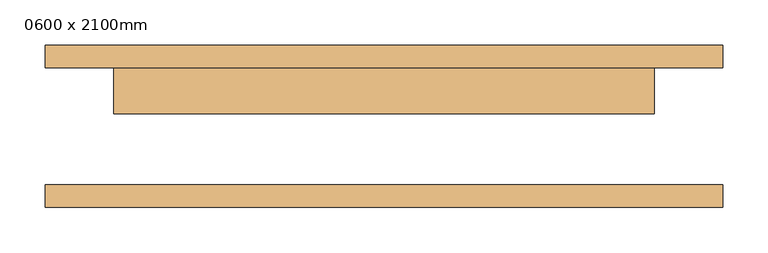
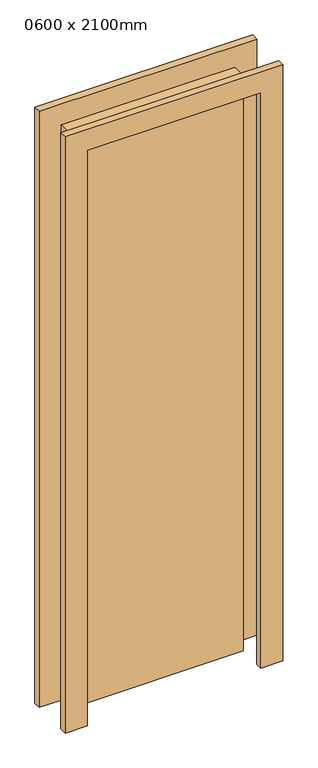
"""IFC4 building model written with IfcOpenShell, lengths in millimetres: door geometry, M_Folha única : 0600 x 2100mm."""

from ifc_helpers import new_model, si_unit, frame, origin, origin_with_axes, place, context, project, spatial, polyline, outline, extrude, source, transform, mapped, element, save


def door_0600_x_2100mm_5e2a27a3(model_context):
    return source(origin(), model_context, "Body", "SweptSolid", [
        extrude(outline(polyline([(2176.0, -376.0), (0.0, -376.0), (0.0, -300.0), (2100.0, -300.0), (2100.0, 300.0), (0.0, 300.0), (0.0, 376.0), (2176.0, 376.0), (2176.0, -376.0)])), frame((0.0, 65.0, 0.0), z_axis=(0.0, 1.0, 0.0), x_axis=(0.0, 0.0, 1.0)), (0.0, 0.0, 1.0), 25.0),
        extrude(outline(polyline([(2176.0, 376.0), (2176.0, -376.0), (0.0, -376.0), (0.0, -300.0), (2100.0, -300.0), (2100.0, 300.0), (0.0, 300.0), (0.0, 376.0), (2176.0, 376.0)])), frame((0.0, -90.0, 0.0), z_axis=(0.0, 1.0, 0.0), x_axis=(0.0, 0.0, 1.0)), (0.0, 0.0, 1.0), 25.0),
        extrude(outline(polyline([(300.0, 14.0), (-300.0, 14.0), (-300.0, 65.0), (300.0, 65.0), (300.0, 14.0)])), origin_with_axes(), (0.0, 0.0, 1.0), 2100.0),
    ])


if __name__ == "__main__":
    model = new_model("IFC4")
    model_context = context("Model", 3, world=origin())
    ifc_project = project(units=[si_unit("LENGTHUNIT", "METRE", prefix="MILLI")], contexts=[model_context])
    site = spatial("IfcSite", under=ifc_project)
    building = spatial("IfcBuilding", under=site)
    placement = place(None, origin())
    door_0600_x_2100mm_shape = door_0600_x_2100mm_5e2a27a3(model_context)
    element("IfcDoor", 1, ObjectType="M_Folha única : 0600 x 2100mm", at=placement, inside=building, context=model_context, shape_type="MappedRepresentation", body=[
        mapped(door_0600_x_2100mm_shape, transform((0.0, 0.0, 0.0), x_axis=(1.0, 0.0, 0.0), y_axis=(0.0, 1.0, 0.0), z_axis=(0.0, 0.0, 1.0))),
    ])
    save(model, "model.ifc")
